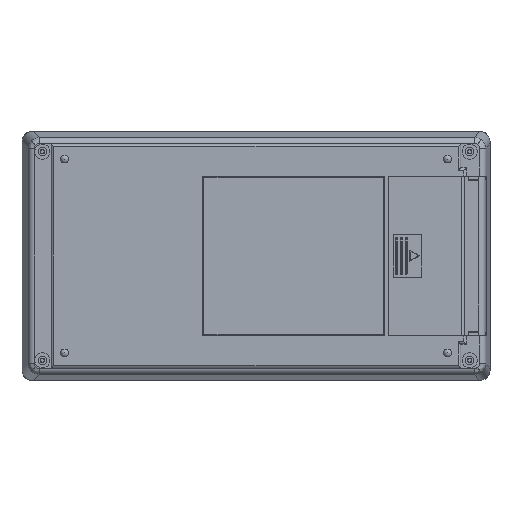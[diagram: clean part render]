
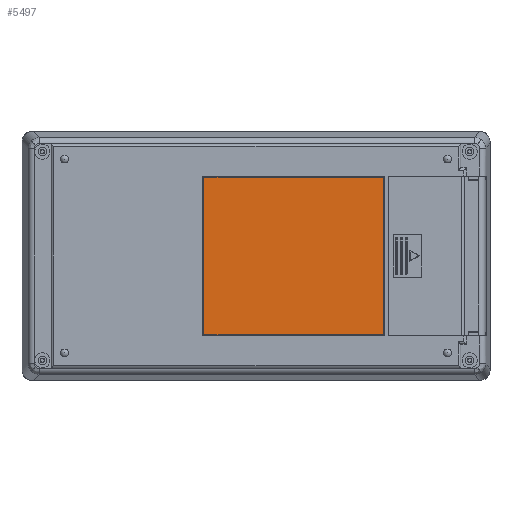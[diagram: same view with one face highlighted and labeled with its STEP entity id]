
A CAD part, front view. The second image highlights one B-rep face of the part: STEP entity #5497.
In plain terms, the highlighted planar face has unit normal (0, -1, 0).
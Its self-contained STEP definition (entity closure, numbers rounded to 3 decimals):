
#151 = CARTESIAN_POINT ( 'NONE',  ( 52., -18.3, 32. ) ) ;
#213 = ORIENTED_EDGE ( 'NONE', *, *, #9941, .T. ) ;
#494 = VERTEX_POINT ( 'NONE', #15898 ) ;
#714 = EDGE_LOOP ( 'NONE', ( #12303, #1700, #10757, #213 ) ) ;
#734 = VERTEX_POINT ( 'NONE', #18239 ) ;
#1196 = VERTEX_POINT ( 'NONE', #13058 ) ;
#1294 = EDGE_CURVE ( 'NONE', #734, #18119, #9056, .T. ) ;
#1548 = EDGE_CURVE ( 'NONE', #18119, #494, #15358, .T. ) ;
#1609 = VECTOR ( 'NONE', #4810, 1000. ) ;
#1700 = ORIENTED_EDGE ( 'NONE', *, *, #1294, .T. ) ;
#3490 = CARTESIAN_POINT ( 'NONE',  ( 52., -18.3, -32. ) ) ;
#4565 = VECTOR ( 'NONE', #13242, 1000. ) ;
#4810 = DIRECTION ( 'NONE',  ( 0., 0., 1. ) ) ;
#5497 = ADVANCED_FACE ( 'NONE', ( #11735 ), #15235, .T. ) ;
#5978 = CARTESIAN_POINT ( 'NONE',  ( 52., -18.3, 32. ) ) ;
#6127 = EDGE_CURVE ( 'NONE', #1196, #734, #8255, .T. ) ;
#6141 = CARTESIAN_POINT ( 'NONE',  ( 52., -18.3, 32. ) ) ;
#7946 = VECTOR ( 'NONE', #18269, 1000. ) ;
#8238 = DIRECTION ( 'NONE',  ( 0., -1., 0. ) ) ;
#8255 = LINE ( 'NONE', #3490, #4565 ) ;
#8277 = LINE ( 'NONE', #12616, #14356 ) ;
#9056 = LINE ( 'NONE', #5978, #1609 ) ;
#9882 = DIRECTION ( 'NONE',  ( 0., 0., -1. ) ) ;
#9941 = EDGE_CURVE ( 'NONE', #494, #1196, #8277, .T. ) ;
#10757 = ORIENTED_EDGE ( 'NONE', *, *, #1548, .T. ) ;
#11735 = FACE_OUTER_BOUND ( 'NONE', #714, .T. ) ;
#12303 = ORIENTED_EDGE ( 'NONE', *, *, #6127, .T. ) ;
#12616 = CARTESIAN_POINT ( 'NONE',  ( -21.2, -18.3, 32. ) ) ;
#13058 = CARTESIAN_POINT ( 'NONE',  ( -21.2, -18.3, -32. ) ) ;
#13242 = DIRECTION ( 'NONE',  ( 1., 0., 0. ) ) ;
#13791 = CARTESIAN_POINT ( 'NONE',  ( -95.3, -18.3, -50.7 ) ) ;
#14356 = VECTOR ( 'NONE', #9882, 1000. ) ;
#15235 = PLANE ( 'NONE',  #18098 ) ;
#15358 = LINE ( 'NONE', #6141, #7946 ) ;
#15898 = CARTESIAN_POINT ( 'NONE',  ( -21.2, -18.3, 32. ) ) ;
#16670 = DIRECTION ( 'NONE',  ( 0., 0., -1. ) ) ;
#18098 = AXIS2_PLACEMENT_3D ( 'NONE', #13791, #8238, #16670 ) ;
#18119 = VERTEX_POINT ( 'NONE', #151 ) ;
#18239 = CARTESIAN_POINT ( 'NONE',  ( 52., -18.3, -32. ) ) ;
#18269 = DIRECTION ( 'NONE',  ( -1., 0., 0. ) ) ;
